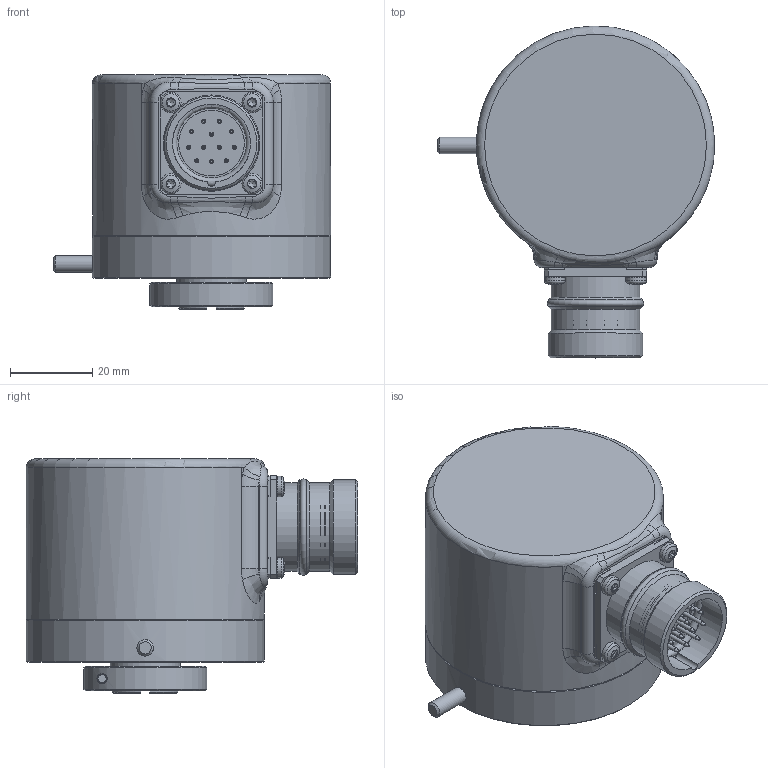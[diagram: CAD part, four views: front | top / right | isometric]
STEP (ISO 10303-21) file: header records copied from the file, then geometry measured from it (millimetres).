
FILE_DESCRIPTION( ( 'Unknown' ), '1' );
FILE_NAME( '//emea.baumernet.org/de01apps/Konstr_Zchng/3D_Zeichnung/Produkte/GXA2S/!Marketing/Step-Dateien/GXA2S.BxxA105.stp', 'Unknown', ( 'Unknown' ), ( 'Unknown' ), 'PSStep 15.0.49', 'Unknown', ' ' );
FILE_SCHEMA( ( 'AUTOMOTIVE_DESIGN { 1 0 10303 214 1 1 1 1 }' ) );
Length unit declared in the file: millimetre
Products named in the file (8): Assem1; 20700009-02; 33800475; 01500191; 02701268-M; 20800031Y; 02500678; 16100075
Assembly tree (10 placements, depth 2):
  Assem1
    20700009-02  x4
    33800475
    01500191
    02701268-M
    20800031Y
    02500678
    16100075
Bounding box: 67.5 x 80.8 x 57 mm (x, y, z)
Volume: 64438.2 mm3; surface area: 39721.4 mm2
Topology: 10 solids, 11 shells, 583 faces, 1479 edges, 958 vertices
Faces by surface type: plane 253, cylinder 180, cone 92, bspline 36, torus 22
Full cylindrical faces by diameter (mm): 1 x12, 1.4 x12, 2 x12, 2.013 x4, 2.5 x15, 2.7 x4, 3 x1, 3.2 x1, 4 x2, 5 x4, 5.5 x1, 6 x4, 12 x1, 15 x1, 16 x1, 16.9 x1, 17 x3, 20.1 x1, 20.5 x2, 21 x2, 21.5 x2, 23 x1, 26 x1, 26.03 x1, 34 x1, 55.8 x1, 56 x1, 58 x2
Entity records: 20973 total; most frequent: CARTESIAN_POINT 7641, DIRECTION 2123, ORIENTED_EDGE 1984, EDGE_CURVE 992, AXIS2_PLACEMENT_3D 829, VERTEX_POINT 727, EDGE_LOOP 690, FACE_OUTER_BOUND 579
